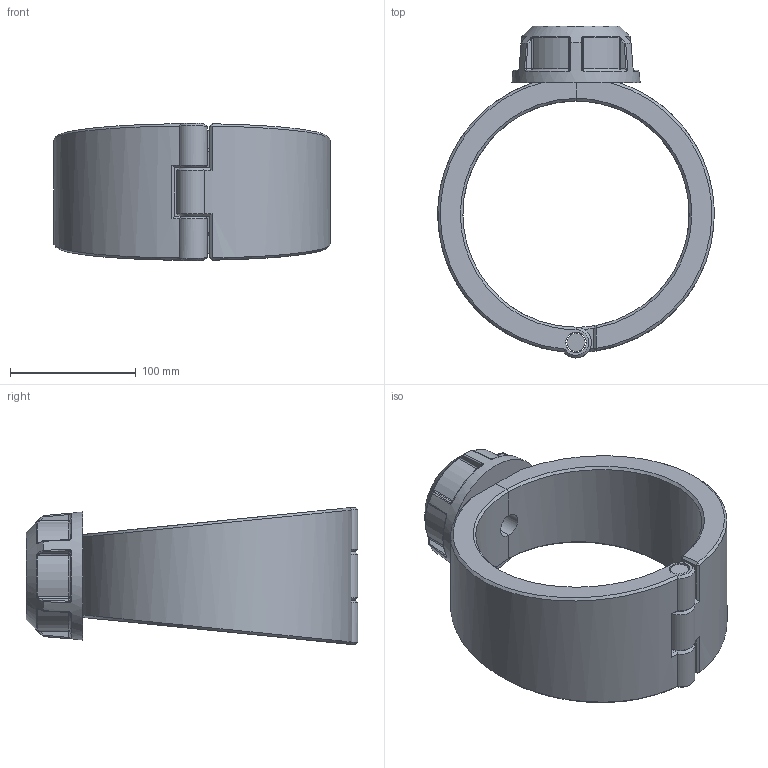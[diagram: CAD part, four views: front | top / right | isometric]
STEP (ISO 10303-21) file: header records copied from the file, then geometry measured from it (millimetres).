
FILE_DESCRIPTION(/* description */ ('Plassadle Threaded 180x1 1/4'''''),/* implementation_level */ '2;1');
FILE_NAME(/* name */ 'C:\Users\comp2\Dropbox\99-16-3568-Processing\Mechanical Fittings\16300\stp\163000180013.stp',/* time_stamp */ '2022-02-03T11:52:45+00:00',/* author */ ('comp2'),/* organization */ (''),/* preprocessor_version */ 'ST-DEVELOPER v17.2',/* originating_system */ 'Autodesk Inventor 2019',/* authorisation */ '');
FILE_SCHEMA (('AUTOMOTIVE_DESIGN { 1 0 10303 214 3 1 1 }'));
Length unit declared in the file: millimetre
Products named in the file (1): 163000180013
Bounding box: 219.91 x 263.99 x 109.6 mm (x, y, z)
Volume: 1297910.4 mm3; surface area: 179795.2 mm2
Topology: 4 solids, 4 shells, 203 faces, 486 edges, 293 vertices
Faces by surface type: bspline 58, plane 53, cylinder 47, torus 18, cone 15, sphere 12
Full cylindrical faces by diameter (mm): 14.4 x1, 16.4 x3, 19.476 x1, 33.109 x1, 38.952 x1, 58.428 x1
Entity records: 8265 total; most frequent: CARTESIAN_POINT 3918, ORIENTED_EDGE 972, DIRECTION 781, EDGE_CURVE 486, AXIS2_PLACEMENT_3D 330, VERTEX_POINT 293, EDGE_LOOP 213, FACE_OUTER_BOUND 203
